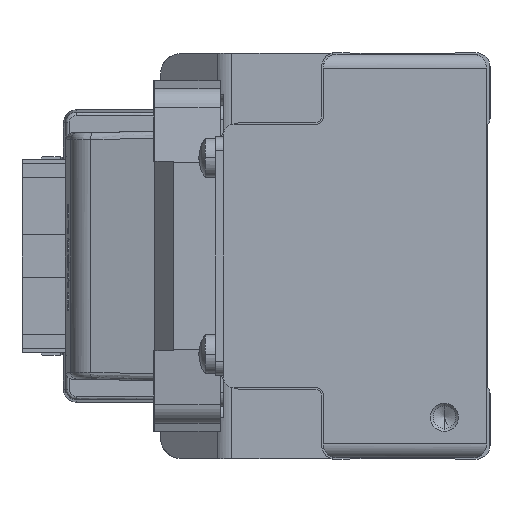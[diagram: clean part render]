
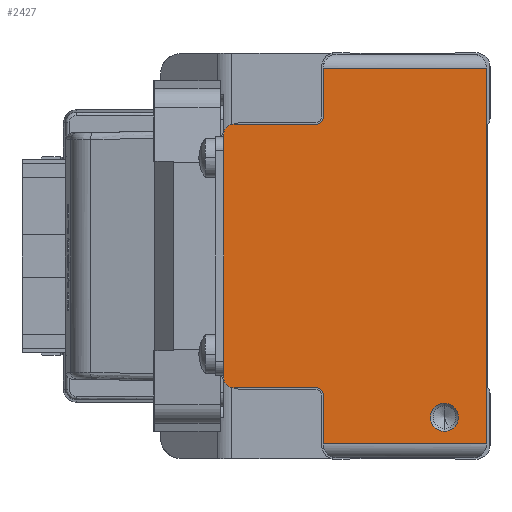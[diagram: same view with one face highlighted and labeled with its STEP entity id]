
A CAD part, left-side view. The second image highlights one B-rep face of the part: STEP entity #2427.
In plain terms, the highlighted planar face has unit normal (-1, 0, 0) as drawn and (0, 0, 1) by its records, which use the part's own axes.
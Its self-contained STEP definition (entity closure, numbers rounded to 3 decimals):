
#802 = CARTESIAN_POINT ( 'NONE',  ( -18.8, 36.5, 170. ) ) ;
#1234 = LINE ( 'NONE', #40859, #43206 ) ;
#1476 = PLANE ( 'NONE',  #29518 ) ;
#1544 = ORIENTED_EDGE ( 'NONE', *, *, #12449, .T. ) ;
#2427 = ADVANCED_FACE ( 'NONE', ( #18453, #25498 ), #1476, .T. ) ;
#2609 = AXIS2_PLACEMENT_3D ( 'NONE', #32547, #5890, #16063 ) ;
#2967 = CIRCLE ( 'NONE', #20565, 2. ) ;
#3456 = DIRECTION ( 'NONE',  ( 0., 0., -1. ) ) ;
#3469 = DIRECTION ( 'NONE',  ( -1., 0., 0. ) ) ;
#4993 = CARTESIAN_POINT ( 'NONE',  ( 18.8, 24.8, 170. ) ) ;
#5231 = ORIENTED_EDGE ( 'NONE', *, *, #12298, .F. ) ;
#5242 = CARTESIAN_POINT ( 'NONE',  ( -26.8, 0.5, 170. ) ) ;
#5890 = DIRECTION ( 'NONE',  ( 0., 0., 1. ) ) ;
#5998 = VERTEX_POINT ( 'NONE', #16100 ) ;
#6128 = CARTESIAN_POINT ( 'NONE',  ( -18.8, 24.8, 170. ) ) ;
#6626 = EDGE_CURVE ( 'NONE', #30932, #27657, #26090, .T. ) ;
#6707 = EDGE_CURVE ( 'NONE', #33849, #30932, #7618, .T. ) ;
#7139 = CARTESIAN_POINT ( 'NONE',  ( 19.8, 23.8, 170. ) ) ;
#7615 = AXIS2_PLACEMENT_3D ( 'NONE', #23758, #17128, #3469 ) ;
#7618 = CIRCLE ( 'NONE', #13252, 1.5 ) ;
#7872 = DIRECTION ( 'NONE',  ( 0., 1., 0. ) ) ;
#7930 = EDGE_CURVE ( 'NONE', #24475, #5998, #22195, .T. ) ;
#8086 = ORIENTED_EDGE ( 'NONE', *, *, #41723, .T. ) ;
#8942 = CIRCLE ( 'NONE', #2609, 1. ) ;
#9226 = LINE ( 'NONE', #23124, #25116 ) ;
#9396 = CARTESIAN_POINT ( 'NONE',  ( -26.8, 0.5, 170. ) ) ;
#9968 = CARTESIAN_POINT ( 'NONE',  ( -25., 6.5, 170. ) ) ;
#10554 = EDGE_CURVE ( 'NONE', #24828, #36506, #2967, .T. ) ;
#11167 = VERTEX_POINT ( 'NONE', #14937 ) ;
#11474 = EDGE_CURVE ( 'NONE', #5998, #24851, #32476, .T. ) ;
#11791 = CARTESIAN_POINT ( 'NONE',  ( -26.8, 21.8, 170. ) ) ;
#11925 = EDGE_CURVE ( 'NONE', #11167, #37939, #42505, .T. ) ;
#12298 = EDGE_CURVE ( 'NONE', #38315, #36104, #35434, .T. ) ;
#12449 = EDGE_CURVE ( 'NONE', #36506, #24828, #26643, .T. ) ;
#12765 = DIRECTION ( 'NONE',  ( -1., 0., 0. ) ) ;
#12848 = DIRECTION ( 'NONE',  ( -1., 0., 0. ) ) ;
#13252 = AXIS2_PLACEMENT_3D ( 'NONE', #30661, #43404, #40314 ) ;
#14023 = DIRECTION ( 'NONE',  ( 0., -1., 0. ) ) ;
#14162 = ORIENTED_EDGE ( 'NONE', *, *, #7930, .T. ) ;
#14937 = CARTESIAN_POINT ( 'NONE',  ( -26.8, 23.8, 170. ) ) ;
#16063 = DIRECTION ( 'NONE',  ( 1., 0., 0. ) ) ;
#16100 = CARTESIAN_POINT ( 'NONE',  ( 18.8, 36.5, 170. ) ) ;
#16147 = CARTESIAN_POINT ( 'NONE',  ( 17.3, 38., 170. ) ) ;
#16895 = DIRECTION ( 'NONE',  ( -1., 0., 0. ) ) ;
#16993 = ORIENTED_EDGE ( 'NONE', *, *, #23320, .F. ) ;
#17099 = ORIENTED_EDGE ( 'NONE', *, *, #11474, .T. ) ;
#17128 = DIRECTION ( 'NONE',  ( 0., 0., -1. ) ) ;
#17279 = CARTESIAN_POINT ( 'NONE',  ( 26.8, 0.5, 170. ) ) ;
#17346 = DIRECTION ( 'NONE',  ( -1., 0., 0. ) ) ;
#17645 = EDGE_CURVE ( 'NONE', #24475, #38363, #41222, .T. ) ;
#18066 = DIRECTION ( 'NONE',  ( 1., 0., 0. ) ) ;
#18236 = DIRECTION ( 'NONE',  ( 1., 0., 0. ) ) ;
#18430 = DIRECTION ( 'NONE',  ( 1., 0., 0. ) ) ;
#18453 = FACE_BOUND ( 'NONE', #19866, .T. ) ;
#18632 = CARTESIAN_POINT ( 'NONE',  ( 17.3, 36.5, 170. ) ) ;
#19703 = ORIENTED_EDGE ( 'NONE', *, *, #6626, .T. ) ;
#19866 = EDGE_LOOP ( 'NONE', ( #1544, #42413 ) ) ;
#20565 = AXIS2_PLACEMENT_3D ( 'NONE', #34015, #3456, #16895 ) ;
#20606 = CARTESIAN_POINT ( 'NONE',  ( 26.8, 23.8, 170. ) ) ;
#20957 = VECTOR ( 'NONE', #32635, 1000. ) ;
#21405 = VECTOR ( 'NONE', #12848, 1000. ) ;
#21441 = EDGE_LOOP ( 'NONE', ( #19703, #16993, #31822, #34817, #8086, #5231, #33052, #34047, #14162, #17099, #40119, #39327 ) ) ;
#21674 = VECTOR ( 'NONE', #14023, 1000. ) ;
#22195 = LINE ( 'NONE', #4993, #39997 ) ;
#22315 = AXIS2_PLACEMENT_3D ( 'NONE', #41248, #40610, #41026 ) ;
#22335 = CARTESIAN_POINT ( 'NONE',  ( -26.8, 24., 170. ) ) ;
#22556 = CARTESIAN_POINT ( 'NONE',  ( 18.8, 24.8, 170. ) ) ;
#22782 = DIRECTION ( 'NONE',  ( 0., -1., 0. ) ) ;
#23124 = CARTESIAN_POINT ( 'NONE',  ( -19.8, 23.8, 170. ) ) ;
#23320 = EDGE_CURVE ( 'NONE', #38273, #27657, #8942, .T. ) ;
#23758 = CARTESIAN_POINT ( 'NONE',  ( -23., 6.5, 170. ) ) ;
#24431 = VECTOR ( 'NONE', #18066, 1000. ) ;
#24475 = VERTEX_POINT ( 'NONE', #22556 ) ;
#24828 = VERTEX_POINT ( 'NONE', #41097 ) ;
#24851 = VERTEX_POINT ( 'NONE', #24867 ) ;
#24867 = CARTESIAN_POINT ( 'NONE',  ( 17.3, 38., 170. ) ) ;
#25084 = EDGE_CURVE ( 'NONE', #24851, #33849, #39452, .T. ) ;
#25116 = VECTOR ( 'NONE', #12765, 1000. ) ;
#25498 = FACE_OUTER_BOUND ( 'NONE', #21441, .T. ) ;
#26090 = LINE ( 'NONE', #36158, #39940 ) ;
#26643 = CIRCLE ( 'NONE', #7615, 2. ) ;
#27657 = VERTEX_POINT ( 'NONE', #6128 ) ;
#29403 = CARTESIAN_POINT ( 'NONE',  ( -19.8, 23.8, 170. ) ) ;
#29518 = AXIS2_PLACEMENT_3D ( 'NONE', #11791, #41711, #18236 ) ;
#30661 = CARTESIAN_POINT ( 'NONE',  ( -17.3, 36.5, 170. ) ) ;
#30932 = VERTEX_POINT ( 'NONE', #802 ) ;
#31822 = ORIENTED_EDGE ( 'NONE', *, *, #41756, .T. ) ;
#32476 = CIRCLE ( 'NONE', #37357, 1.5 ) ;
#32547 = CARTESIAN_POINT ( 'NONE',  ( -19.8, 24.8, 170. ) ) ;
#32635 = DIRECTION ( 'NONE',  ( 0., -1., 0. ) ) ;
#33052 = ORIENTED_EDGE ( 'NONE', *, *, #40061, .T. ) ;
#33409 = CARTESIAN_POINT ( 'NONE',  ( -17.3, 38., 170. ) ) ;
#33849 = VERTEX_POINT ( 'NONE', #33409 ) ;
#34015 = CARTESIAN_POINT ( 'NONE',  ( -23., 6.5, 170. ) ) ;
#34027 = CARTESIAN_POINT ( 'NONE',  ( 26.8, 24., 170. ) ) ;
#34047 = ORIENTED_EDGE ( 'NONE', *, *, #17645, .F. ) ;
#34817 = ORIENTED_EDGE ( 'NONE', *, *, #11925, .T. ) ;
#34956 = LINE ( 'NONE', #5242, #24431 ) ;
#35434 = LINE ( 'NONE', #34027, #21674 ) ;
#36104 = VERTEX_POINT ( 'NONE', #17279 ) ;
#36158 = CARTESIAN_POINT ( 'NONE',  ( -18.8, 36.5, 170. ) ) ;
#36506 = VERTEX_POINT ( 'NONE', #9968 ) ;
#37357 = AXIS2_PLACEMENT_3D ( 'NONE', #18632, #37977, #18430 ) ;
#37939 = VERTEX_POINT ( 'NONE', #9396 ) ;
#37977 = DIRECTION ( 'NONE',  ( 0., 0., 1. ) ) ;
#38273 = VERTEX_POINT ( 'NONE', #29403 ) ;
#38315 = VERTEX_POINT ( 'NONE', #20606 ) ;
#38363 = VERTEX_POINT ( 'NONE', #7139 ) ;
#39327 = ORIENTED_EDGE ( 'NONE', *, *, #6707, .T. ) ;
#39452 = LINE ( 'NONE', #16147, #21405 ) ;
#39940 = VECTOR ( 'NONE', #22782, 1000. ) ;
#39997 = VECTOR ( 'NONE', #7872, 1000. ) ;
#40061 = EDGE_CURVE ( 'NONE', #38315, #38363, #1234, .T. ) ;
#40119 = ORIENTED_EDGE ( 'NONE', *, *, #25084, .T. ) ;
#40314 = DIRECTION ( 'NONE',  ( 1., 0., 0. ) ) ;
#40610 = DIRECTION ( 'NONE',  ( 0., 0., 1. ) ) ;
#40859 = CARTESIAN_POINT ( 'NONE',  ( 26.8, 23.8, 170. ) ) ;
#41026 = DIRECTION ( 'NONE',  ( 1., 0., 0. ) ) ;
#41097 = CARTESIAN_POINT ( 'NONE',  ( -21., 6.5, 170. ) ) ;
#41222 = CIRCLE ( 'NONE', #22315, 1. ) ;
#41248 = CARTESIAN_POINT ( 'NONE',  ( 19.8, 24.8, 170. ) ) ;
#41711 = DIRECTION ( 'NONE',  ( 0., 0., 1. ) ) ;
#41723 = EDGE_CURVE ( 'NONE', #37939, #36104, #34956, .T. ) ;
#41756 = EDGE_CURVE ( 'NONE', #38273, #11167, #9226, .T. ) ;
#42413 = ORIENTED_EDGE ( 'NONE', *, *, #10554, .T. ) ;
#42505 = LINE ( 'NONE', #22335, #20957 ) ;
#43206 = VECTOR ( 'NONE', #17346, 1000. ) ;
#43404 = DIRECTION ( 'NONE',  ( 0., 0., 1. ) ) ;
